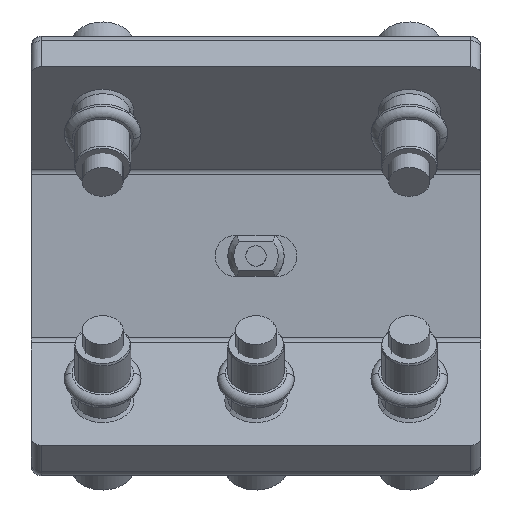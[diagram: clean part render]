
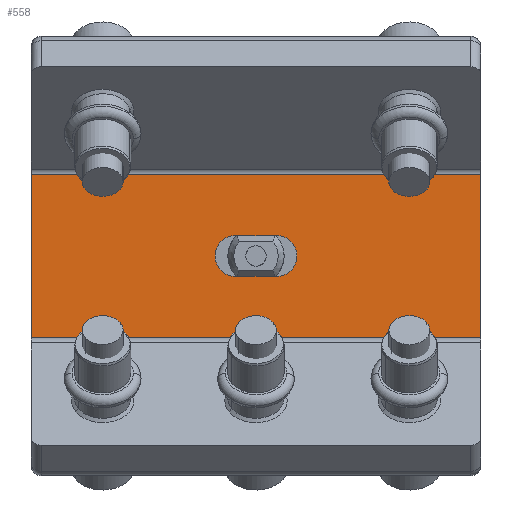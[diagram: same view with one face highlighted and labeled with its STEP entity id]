
A CAD part, front view. The second image highlights one B-rep face of the part: STEP entity #558.
In plain terms, the highlighted planar face has unit normal (0, -1, 0).
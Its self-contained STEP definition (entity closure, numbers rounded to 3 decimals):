
#558=ADVANCED_FACE('5252143.1_Seitenanbindung mittig SW80',(#1363,#1364),#1365,.F.);
#1363=FACE_OUTER_BOUND('',#2526,.T.);
#1364=FACE_BOUND('',#2527,.T.);
#1365=PLANE('',#2528);
#2526=EDGE_LOOP('',(#4162,#4163,#4164,#4165));
#2527=EDGE_LOOP('',(#4166,#4167,#4168,#4169,#4170,#4171));
#2528=AXIS2_PLACEMENT_3D('',#4172,#4173,#4174);
#4162=ORIENTED_EDGE('',*,*,#7058,.F.);
#4163=ORIENTED_EDGE('',*,*,#7059,.F.);
#4164=ORIENTED_EDGE('',*,*,#7060,.T.);
#4165=ORIENTED_EDGE('',*,*,#7003,.T.);
#4166=ORIENTED_EDGE('',*,*,#7040,.F.);
#4167=ORIENTED_EDGE('',*,*,#7036,.F.);
#4168=ORIENTED_EDGE('',*,*,#6908,.F.);
#4169=ORIENTED_EDGE('',*,*,#7047,.F.);
#4170=ORIENTED_EDGE('',*,*,#7043,.F.);
#4171=ORIENTED_EDGE('',*,*,#6913,.F.);
#4172=CARTESIAN_POINT('',(0.0,40.,-15.947));
#4173=DIRECTION('',(0.0,1.0,0.0));
#4174=DIRECTION('',(0.0,0.0,1.0));
#6908=EDGE_CURVE('',#8141,#8144,#8145,.T.);
#6913=EDGE_CURVE('',#8150,#8153,#8154,.T.);
#7003=EDGE_CURVE('',#8308,#8305,#8309,.T.);
#7036=EDGE_CURVE('',#8144,#8352,#8353,.T.);
#7040=EDGE_CURVE('',#8352,#8150,#8357,.T.);
#7043=EDGE_CURVE('',#8153,#8361,#8362,.T.);
#7047=EDGE_CURVE('',#8361,#8141,#8366,.T.);
#7058=EDGE_CURVE('',#8379,#8305,#8380,.T.);
#7059=EDGE_CURVE('',#8381,#8379,#8382,.T.);
#7060=EDGE_CURVE('',#8381,#8308,#8383,.T.);
#8141=VERTEX_POINT('',#10038);
#8144=VERTEX_POINT('',#10042);
#8145=(B_SPLINE_CURVE(4,(#10044,#10045,#10046,#10047,#10048),.UNSPECIFIED.,.F.,.F.)B_SPLINE_CURVE_WITH_KNOTS((5,5),(6.283,18.85),.UNSPECIFIED.)RATIONAL_B_SPLINE_CURVE((1.0,0.707,0.667,0.707,1.0))BOUNDED_CURVE()REPRESENTATION_ITEM('')GEOMETRIC_REPRESENTATION_ITEM()CURVE());
#8150=VERTEX_POINT('',#10071);
#8153=VERTEX_POINT('',#10075);
#8154=(B_SPLINE_CURVE(4,(#10077,#10078,#10079,#10080,#10081),.UNSPECIFIED.,.F.,.F.)B_SPLINE_CURVE_WITH_KNOTS((5,5),(6.283,18.85),.UNSPECIFIED.)RATIONAL_B_SPLINE_CURVE((1.0,0.707,0.667,0.707,1.0))BOUNDED_CURVE()REPRESENTATION_ITEM('')GEOMETRIC_REPRESENTATION_ITEM()CURVE());
#8305=VERTEX_POINT('',#10782);
#8308=VERTEX_POINT('',#10794);
#8309=B_SPLINE_CURVE_WITH_KNOTS('',1,(#10795,#10796),.UNSPECIFIED.,.F.,.F.,(2,2),(0.0,1.0),.UNSPECIFIED.);
#8352=VERTEX_POINT('',#11048);
#8353=B_SPLINE_CURVE_WITH_KNOTS('',1,(#11049,#11050),.UNSPECIFIED.,.F.,.F.,(2,2),(0.0,1.0),.UNSPECIFIED.);
#8357=(B_SPLINE_CURVE(4,(#11067,#11068,#11069,#11070,#11071),.UNSPECIFIED.,.F.,.F.)B_SPLINE_CURVE_WITH_KNOTS((5,5),(6.283,18.85),.UNSPECIFIED.)RATIONAL_B_SPLINE_CURVE((1.0,0.707,0.667,0.707,1.0))BOUNDED_CURVE()REPRESENTATION_ITEM('')GEOMETRIC_REPRESENTATION_ITEM()CURVE());
#8361=VERTEX_POINT('',#11082);
#8362=B_SPLINE_CURVE_WITH_KNOTS('',1,(#11083,#11084),.UNSPECIFIED.,.F.,.F.,(2,2),(0.,1.0),.UNSPECIFIED.);
#8366=(B_SPLINE_CURVE(4,(#11101,#11102,#11103,#11104,#11105),.UNSPECIFIED.,.F.,.F.)B_SPLINE_CURVE_WITH_KNOTS((5,5),(6.283,18.85),.UNSPECIFIED.)RATIONAL_B_SPLINE_CURVE((1.0,0.707,0.667,0.707,1.0))BOUNDED_CURVE()REPRESENTATION_ITEM('')GEOMETRIC_REPRESENTATION_ITEM()CURVE());
#8379=VERTEX_POINT('',#11164);
#8380=B_SPLINE_CURVE_WITH_KNOTS('',1,(#11165,#11166),.UNSPECIFIED.,.F.,.F.,(2,2),(0.0,1.0),.UNSPECIFIED.);
#8381=VERTEX_POINT('',#11167);
#8382=B_SPLINE_CURVE_WITH_KNOTS('',1,(#11168,#11169),.UNSPECIFIED.,.F.,.F.,(2,2),(0.0,1.0),.UNSPECIFIED.);
#8383=B_SPLINE_CURVE_WITH_KNOTS('',1,(#11170,#11171),.UNSPECIFIED.,.F.,.F.,(2,2),(0.0,1.0),.UNSPECIFIED.);
#10038=CARTESIAN_POINT('',(8.0,40.,0.));
#10042=CARTESIAN_POINT('',(4.0,40.,4.0));
#10044=CARTESIAN_POINT('',(4.0,40.,-4.0));
#10045=CARTESIAN_POINT('',(8.0,40.,-4.0));
#10046=CARTESIAN_POINT('',(10.0,40.,0.));
#10047=CARTESIAN_POINT('',(8.0,40.,4.0));
#10048=CARTESIAN_POINT('',(4.0,40.,4.0));
#10071=CARTESIAN_POINT('',(-8.0,40.,0.));
#10075=CARTESIAN_POINT('',(-4.0,40.,-4.0));
#10077=CARTESIAN_POINT('',(-4.0,40.,4.0));
#10078=CARTESIAN_POINT('',(-8.0,40.,4.0));
#10079=CARTESIAN_POINT('',(-10.0,40.,0.));
#10080=CARTESIAN_POINT('',(-8.0,40.,-4.0));
#10081=CARTESIAN_POINT('',(-4.0,40.,-4.0));
#10782=CARTESIAN_POINT('',(44.0,40.,-15.947));
#10794=CARTESIAN_POINT('',(-44.0,40.,-15.947));
#10795=CARTESIAN_POINT('',(-44.,40.,-15.947));
#10796=CARTESIAN_POINT('',(44.,40.,-15.947));
#11048=CARTESIAN_POINT('',(-4.0,40.,4.0));
#11049=CARTESIAN_POINT('',(4.0,40.,4.0));
#11050=CARTESIAN_POINT('',(-4.0,40.,4.0));
#11067=CARTESIAN_POINT('',(-4.0,40.,4.0));
#11068=CARTESIAN_POINT('',(-8.0,40.,4.0));
#11069=CARTESIAN_POINT('',(-10.0,40.,0.));
#11070=CARTESIAN_POINT('',(-8.0,40.,-4.0));
#11071=CARTESIAN_POINT('',(-4.0,40.,-4.0));
#11082=CARTESIAN_POINT('',(4.0,40.,-4.0));
#11083=CARTESIAN_POINT('',(-4.0,40.,-4.0));
#11084=CARTESIAN_POINT('',(4.0,40.,-4.0));
#11101=CARTESIAN_POINT('',(4.0,40.,-4.0));
#11102=CARTESIAN_POINT('',(8.0,40.,-4.0));
#11103=CARTESIAN_POINT('',(10.0,40.,0.));
#11104=CARTESIAN_POINT('',(8.0,40.,4.0));
#11105=CARTESIAN_POINT('',(4.0,40.,4.0));
#11164=CARTESIAN_POINT('',(44.0,40.,15.947));
#11165=CARTESIAN_POINT('',(44.0,40.,15.947));
#11166=CARTESIAN_POINT('',(44.0,40.,-15.947));
#11167=CARTESIAN_POINT('',(-44.0,40.,15.947));
#11168=CARTESIAN_POINT('',(-44.0,40.,15.947));
#11169=CARTESIAN_POINT('',(44.0,40.,15.947));
#11170=CARTESIAN_POINT('',(-44.0,40.,15.947));
#11171=CARTESIAN_POINT('',(-44.0,40.,-15.947));
